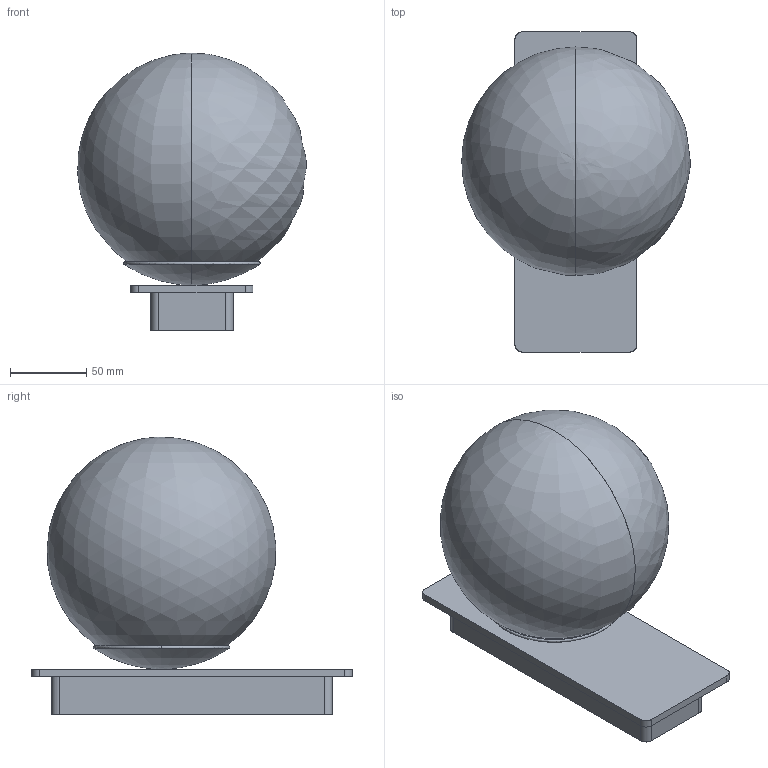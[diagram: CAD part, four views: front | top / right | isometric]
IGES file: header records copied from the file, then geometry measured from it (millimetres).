
Start section: SolidWorks IGES file using analytic representation for surfaces
Global section: file name: C:\Users\danielet\Desktop\3D ANDONI\KIN-A816910-3D\KIN-A816910-3D.IGS; native system: SolidWorks 2018; preprocessor: SolidWorks 2018; author: danielet; date: 210309.121529; units: millimetre
Bounding box: 149.79 x 210 x 182 mm (x, y, z)
Surface area: 127055.3 mm2 (no closed solid volume)
Topology: 0 solids, 0 shells, 35 faces, 468 edges, 466 vertices
Faces by surface type: bspline 19, revolution 16
